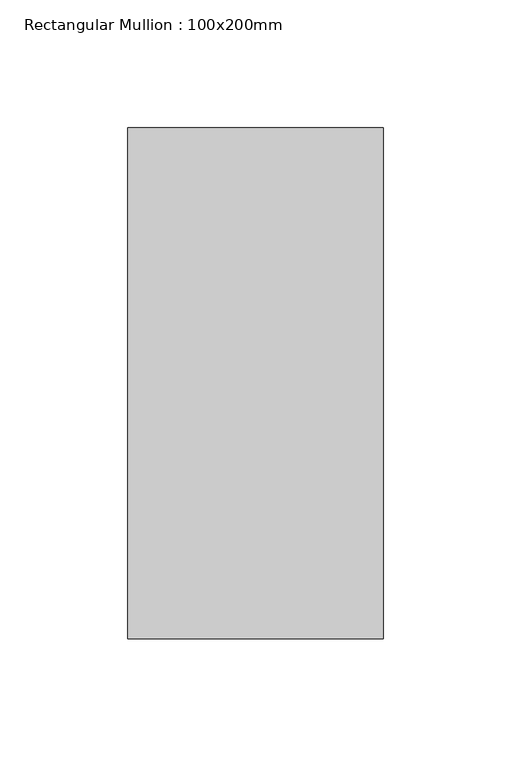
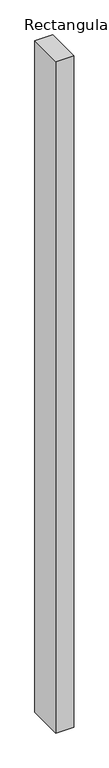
"""IFC4 building model written with IfcOpenShell, lengths in millimetres: member geometry, Rectangular Mullion : 100x200mm."""

from ifc_helpers import new_model, si_unit, frame, origin, place, context, project, spatial, polyline, outline, extrude, source, transform, mapped, element, save


def rectangular_mullion_100x200mm_83bd42ed(model_context):
    return source(origin(), model_context, "Body", "SweptSolid", [
        extrude(outline(polyline([(50.0, 100.0), (50.0, -100.0), (-50.0, -100.0), (-50.0, 100.0), (50.0, 100.0)])), frame((0.0, 0.0, -3930.0), z_axis=(0.0, 0.0, 1.0), x_axis=(1.0, 0.0, 0.0)), (0.0, 0.0, 1.0), 3930.0),
    ])


if __name__ == "__main__":
    model = new_model("IFC4")
    model_context = context("Model", 3, world=origin())
    ifc_project = project(units=[si_unit("LENGTHUNIT", "METRE", prefix="MILLI")], contexts=[model_context])
    site = spatial("IfcSite", under=ifc_project)
    building = spatial("IfcBuilding", under=site)
    placement = place(None, origin())
    rectangular_mullion_100x200mm_shape = rectangular_mullion_100x200mm_83bd42ed(model_context)
    element("IfcMember", 1, ObjectType="Rectangular Mullion : 100x200mm", at=placement, inside=building, context=model_context, shape_type="MappedRepresentation", body=[
        mapped(rectangular_mullion_100x200mm_shape, transform((0.0, 0.0, 0.0), x_axis=(1.0, 0.0, 0.0), y_axis=(0.0, 1.0, 0.0), z_axis=(0.0, 0.0, 1.0))),
    ])
    save(model, "model.ifc")
